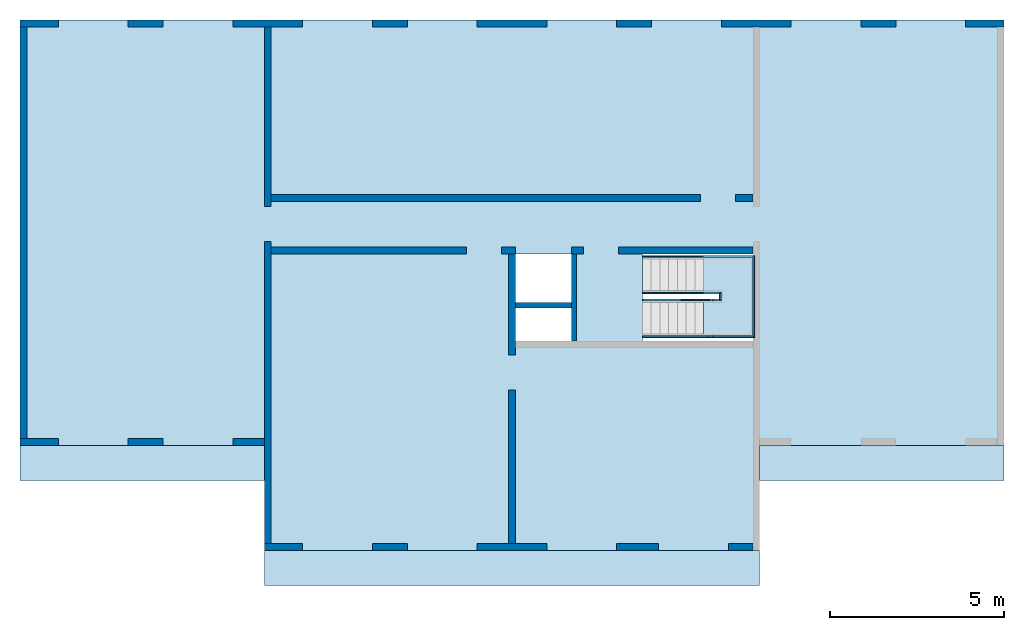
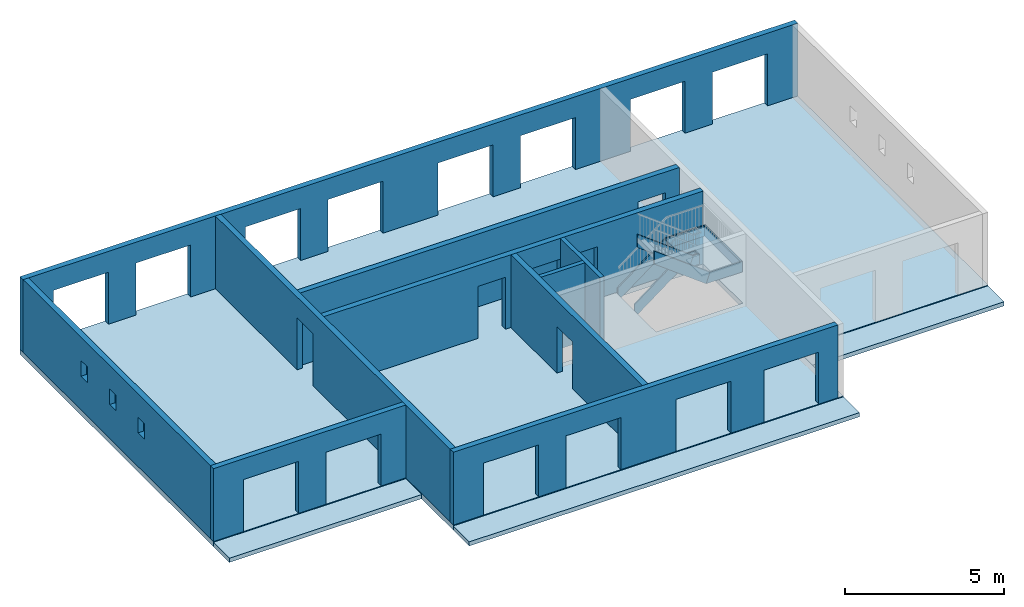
# One storey, part 1 of 3: 10 members, 10 walls, 3 slabs, 26 openings, 1 element without a shape of its own.
"""IFC2X3 building model written with IfcOpenShell, lengths in metres."""

from ifc_helpers import new_model, entity, si_unit, converted_unit, derived_unit, direction, frame, frame_2d, origin, origin_2d_with_axis, place, context, subcontext, project, spatial, polyline, rectangle, outline, extrude, faceted_brep, material, layer, layer_set, layer_usage, type_object, element, aggregate, save


model = new_model("IFC2X3")

# Units and contexts
model_context = context("Model", 3, precision=1e-05, world=origin(), true_north=direction((6.12303176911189e-17, 1.0)))
body_context = subcontext(model_context, "Body", "Model", "MODEL_VIEW")
ifc_project = project(units=[si_unit("LENGTHUNIT", "METRE"), si_unit("AREAUNIT", "SQUARE_METRE"), si_unit("VOLUMEUNIT", "CUBIC_METRE"), converted_unit("PLANEANGLEUNIT", "DEGREE", entity("IfcRatioMeasure", 0.0174532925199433), si_unit("PLANEANGLEUNIT", "RADIAN"), dimensions=[0, 0, 0, 0, 0, 0, 0]), si_unit("MASSUNIT", "GRAM", prefix="KILO"), derived_unit("MASSDENSITYUNIT", [(si_unit("MASSUNIT", "GRAM", prefix="KILO"), 1), (si_unit("LENGTHUNIT", "METRE"), -3)]), si_unit("TIMEUNIT", "SECOND"), si_unit("FREQUENCYUNIT", "HERTZ"), si_unit("THERMODYNAMICTEMPERATUREUNIT", "DEGREE_CELSIUS"), derived_unit("THERMALTRANSMITTANCEUNIT", [(si_unit("MASSUNIT", "GRAM", prefix="KILO"), 1), (si_unit("THERMODYNAMICTEMPERATUREUNIT", "KELVIN"), -1), (si_unit("TIMEUNIT", "SECOND"), -3)]), derived_unit("VOLUMETRICFLOWRATEUNIT", [(si_unit("LENGTHUNIT", "METRE"), 3), (si_unit("TIMEUNIT", "SECOND"), -1)]), si_unit("ELECTRICCURRENTUNIT", "AMPERE"), si_unit("ELECTRICVOLTAGEUNIT", "VOLT"), si_unit("POWERUNIT", "WATT"), si_unit("FORCEUNIT", "NEWTON"), si_unit("ILLUMINANCEUNIT", "LUX"), si_unit("LUMINOUSFLUXUNIT", "LUMEN"), si_unit("LUMINOUSINTENSITYUNIT", "CANDELA"), derived_unit("USERDEFINED", [(si_unit("MASSUNIT", "GRAM", prefix="KILO"), -1), (si_unit("LENGTHUNIT", "METRE"), -2), (si_unit("TIMEUNIT", "SECOND"), 3), (si_unit("LUMINOUSFLUXUNIT", "LUMEN"), 1)]), derived_unit("LINEARVELOCITYUNIT", [(si_unit("LENGTHUNIT", "METRE"), 1), (si_unit("TIMEUNIT", "SECOND"), -1)]), si_unit("PRESSUREUNIT", "PASCAL"), derived_unit("USERDEFINED", [(si_unit("LENGTHUNIT", "METRE"), -2), (si_unit("MASSUNIT", "GRAM", prefix="KILO"), 1), (si_unit("TIMEUNIT", "SECOND"), -2)])], contexts=[model_context])

# Site, building, storey
site_placement = place(None, origin())
site = spatial("IfcSite", under=ifc_project, at=site_placement, Name="Default", CompositionType="ELEMENT")
building_placement = place(site_placement, origin())
building = spatial("IfcBuilding", under=site, at=building_placement, CompositionType="ELEMENT")
storey_placement = place(building_placement, frame((0.0, 0.0, 3.0)))
storey = spatial("IfcBuildingStorey", under=building, at=storey_placement, Name="R+1", CompositionType="ELEMENT", Elevation=2.99999999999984)

# Stair, members
stair_placement = place(storey_placement, origin())
stair = element("IfcStair", 1, at=stair_placement, inside=storey, Name="Escalier assemblé:Escalier", ObjectType="Escalier assemblé:Contremarche 190 mm max marche 250\xa0mm", ShapeType="NOTDEFINED")
member_type = type_object("IfcMemberType", Name="Limon à la française:Limon à la française - 50 mm de largeur", PredefinedType="STRINGER")
member_1_placement = place(stair_placement, origin())
member_1 = element("IfcMember", 2, at=member_1_placement, type_object=member_type, Name="Escalier assemblé:Escalier:468584 Stringer 1", ObjectType="Escalier assemblé:Contremarche 190 mm max marche 250\xa0mm", context=body_context, shape_type="SweptSolid", body=[
    extrude(outline(polyline([(-0.973212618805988, -0.200000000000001), (1.19067644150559, -0.200000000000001), (1.0569252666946, 0.2), (-1.27438908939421, 0.2), (-0.973212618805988, -0.200000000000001)])), frame((6.43043564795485, 2.2618101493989, 0.853112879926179), z_axis=(0.0, 1.0, 0.0), x_axis=(0.798870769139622, 0.0, 0.601502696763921)), (0.0, 0.0, 1.0), 0.05),
])
member_2_placement = place(stair_placement, origin())
member_2 = element("IfcMember", 3, at=member_2_placement, type_object=member_type, Name="Escalier assemblé:Escalier:468584 Stringer 2", ObjectType="Escalier assemblé:Contremarche 190 mm max marche 250\xa0mm", context=body_context, shape_type="SweptSolid", body=[
    extrude(outline(polyline([(-0.973212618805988, -0.2), (1.19067644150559, -0.2), (1.0569252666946, 0.200000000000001), (-1.27438908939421, 0.2), (-0.973212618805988, -0.2)])), frame((6.43043564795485, 1.2118101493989, 0.853112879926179), z_axis=(0.0, 1.0, 0.0), x_axis=(0.798870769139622, 0.0, 0.601502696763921)), (0.0, 0.0, 1.0), 0.0500000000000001),
])
member_3_placement = place(stair_placement, origin())
member_3 = element("IfcMember", 4, at=member_3_placement, type_object=member_type, Name="Escalier assemblé:Escalier:468584 Stringer 3", ObjectType="Escalier assemblé:Contremarche 190 mm max marche 250\xa0mm", context=body_context, shape_type="SweptSolid", body=[
    extrude(outline(polyline([(-1.2901377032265, -0.2), (1.0726738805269, -0.2), (1.37385035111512, 0.2), (-1.15638652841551, 0.200000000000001), (-1.2901377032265, -0.2)])), frame((6.50989234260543, -0.0381898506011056, 2.26487758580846), z_axis=(0.0, 1.0, 0.0), x_axis=(-0.798870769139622, 0.0, 0.601502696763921)), (0.0, 0.0, 1.0), 0.05),
])
member_4_placement = place(stair_placement, origin())
member_4 = element("IfcMember", 5, at=member_4_placement, type_object=member_type, Name="Escalier assemblé:Escalier:468584 Stringer 4", ObjectType="Escalier assemblé:Contremarche 190 mm max marche 250\xa0mm", context=body_context, shape_type="SweptSolid", body=[
    extrude(outline(polyline([(-1.2901377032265, -0.200000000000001), (1.0726738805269, -0.200000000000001), (1.37385035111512, 0.2), (-1.15638652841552, 0.2), (-1.2901377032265, -0.200000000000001)])), frame((6.50989234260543, 1.01181014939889, 2.26487758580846), z_axis=(0.0, 1.0, 0.0), x_axis=(-0.798870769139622, 0.0, 0.60150269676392)), (0.0, 0.0, 1.0), 0.05),
])
member_5_placement = place(stair_placement, frame((7.42024510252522, -0.0381898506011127, 1.32908212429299)))
member_5 = element("IfcMember", 6, at=member_5_placement, type_object=member_type, Name="Escalier assemblé:Escalier:468584 Stringer 5", ObjectType="Escalier assemblé:Contremarche 190 mm max marche 250\xa0mm", context=body_context, shape_type="Brep", body=[
    faceted_brep([(0.133751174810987, 0.0500000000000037, 0.4), (0.133751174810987, 0.0, 0.4), (1.32241889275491, 0.0, 0.4), (1.27241889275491, 0.0500000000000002, 0.4), (0.0, 0.0500000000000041, 0.0), (1.27241889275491, 0.0500000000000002, 0.0), (0.0, 0.0, 0.0), (1.32241889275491, 0.0, 0.0)], [[[0, 1, 2, 3]], [[4, 0, 3, 5]], [[6, 4, 5, 7]], [[1, 6, 7, 2]], [[1, 0, 4, 6]], [[2, 7, 5, 3]]]),
])
member_6_placement = place(stair_placement, origin())
member_6 = element("IfcMember", 7, at=member_6_placement, type_object=member_type, Name="Escalier assemblé:Escalier:468584 Stringer 6", ObjectType="Escalier assemblé:Contremarche 190 mm max marche 250\xa0mm", context=body_context, shape_type="SweptSolid", body=[
    extrude(outline(polyline([(-1.17500000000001, -0.0249999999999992), (1.17500000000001, -0.0249999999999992), (1.125, 0.0250000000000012), (-1.125, 0.0250000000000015), (-1.17500000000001, -0.0249999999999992)])), frame((8.71766399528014, 1.13681014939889, 1.32908212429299), z_axis=(0.0, 0.0, 1.0), x_axis=(0.0, 1.0, 0.0)), (0.0, 0.0, 1.0), 0.4),
])
member_7_placement = place(stair_placement, frame((7.26133171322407, 2.2618101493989, 1.32908212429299)))
member_7 = element("IfcMember", 8, at=member_7_placement, type_object=member_type, Name="Escalier assemblé:Escalier:468584 Stringer 7", ObjectType="Escalier assemblé:Contremarche 190 mm max marche 250\xa0mm", context=body_context, shape_type="Brep", body=[
    faceted_brep([(1.43133228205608, 0.0, 0.4), (1.48133228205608, 0.0499999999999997, 0.4), (0.0, 0.0500000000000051, 0.4), (0.0, 0.0, 0.4), (1.43133228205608, 0.0, 0.0), (0.133751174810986, 0.0, 0.0), (1.48133228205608, 0.0499999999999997, 0.0), (0.133751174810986, 0.0500000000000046, 0.0)], [[[0, 1, 2, 3]], [[4, 0, 3, 5]], [[6, 4, 5, 7]], [[1, 6, 7, 2]], [[1, 0, 4, 6]], [[2, 7, 5, 3]]]),
])
member_8_placement = place(stair_placement, frame((7.26133171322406, 1.2118101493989, 1.32908212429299)))
member_8 = element("IfcMember", 9, at=member_8_placement, type_object=member_type, Name="Escalier assemblé:Escalier:468584 Stringer 8", ObjectType="Escalier assemblé:Contremarche 190 mm max marche 250\xa0mm", context=body_context, shape_type="Brep", body=[
    faceted_brep([(0.0, 0.0500000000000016, 0.4), (0.0, 0.0, 0.4), (0.471332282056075, 0.0, 0.4), (0.521332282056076, 0.0499999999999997, 0.4), (0.133751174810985, 0.0500000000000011, 0.0), (0.521332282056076, 0.0499999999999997, 0.0), (0.133751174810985, 0.0, 0.0), (0.471332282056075, 0.0, 0.0)], [[[0, 1, 2, 3]], [[4, 0, 3, 5]], [[6, 4, 5, 7]], [[1, 6, 7, 2]], [[1, 0, 4, 6]], [[2, 7, 5, 3]]]),
])
member_9_placement = place(stair_placement, origin())
member_9 = element("IfcMember", 10, at=member_9_placement, type_object=member_type, Name="Escalier assemblé:Escalier:468584 Stringer 9", ObjectType="Escalier assemblé:Contremarche 190 mm max marche 250\xa0mm", context=body_context, shape_type="SweptSolid", body=[
    extrude(outline(polyline([(-0.0750000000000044, -0.0250000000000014), (0.0750000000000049, -0.0250000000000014), (0.125000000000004, 0.0249999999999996), (-0.125000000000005, 0.0249999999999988), (-0.0750000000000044, -0.0250000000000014)])), frame((7.75766399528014, 1.13681014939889, 1.32908212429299), z_axis=(0.0, 0.0, 1.0), x_axis=(0.0, -1.0, 0.0)), (0.0, 0.0, 1.0), 0.4),
])
member_10_placement = place(stair_placement, frame((7.42024510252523, 1.01181014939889, 1.32908212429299)))
member_10 = element("IfcMember", 11, at=member_10_placement, type_object=member_type, Name="Escalier assemblé:Escalier:468584 Stringer 10", ObjectType="Escalier assemblé:Contremarche 190 mm max marche 250\xa0mm", context=body_context, shape_type="Brep", body=[
    faceted_brep([(0.362418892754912, 0.0, 0.4), (0.312418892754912, 0.0500000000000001, 0.4), (0.133751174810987, 0.0500000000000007, 0.4), (0.133751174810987, 0.0, 0.4), (0.362418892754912, 0.0, 0.0), (0.0, 0.0, 0.0), (0.312418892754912, 0.0500000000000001, 0.0), (0.0, 0.0500000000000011, 0.0)], [[[0, 1, 2, 3]], [[4, 0, 3, 5]], [[6, 4, 5, 7]], [[1, 6, 7, 2]], [[1, 0, 4, 6]], [[2, 7, 5, 3]]]),
])

# Slab, openings
ifc_material_1 = material(Name="Béton - Coulé sur place - Béton20")
ifc_layer_1 = layer(ifc_material_1, 0.2)
ifc_layer_set_1 = layer_set([ifc_layer_1], Name="Sol:Dalle pleine 200 mm")
ifc_layer_usage_1 = layer_usage(ifc_layer_set_1, "AXIS3", "POSITIVE", 0.0)
slab_1_placement = place(storey_placement, frame((-12.3073360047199, -6.13818985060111, 0.0)))
slab_1 = element("IfcSlab", 12, at=slab_1_placement, inside=storey, material=ifc_layer_usage_1, Name="Sol:Dalle pleine 200 mm", ObjectType="Sol:Dalle pleine 200 mm", PredefinedType="FLOOR", context=body_context, shape_type="SweptSolid", body=[
    extrude(outline(polyline([(-14.1, 7.59999999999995), (-14.1, -4.60000000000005), (-7.1, -4.60000000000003), (-7.09999999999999, -7.60000000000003), (7.10000000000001, -7.59999999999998), (7.10000000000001, -4.59999999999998), (14.1, -4.59999999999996), (14.1, 7.60000000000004), (-14.1, 7.59999999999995)])), frame((14.1, 7.60000000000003, 0.2), z_axis=(0.0, 0.0, -1.0), x_axis=(-1.0, 0.0, 0.0)), (0.0, 0.0, 1.0), 0.2),
])
opening_1_placement = place(slab_1_placement, frame((15.0, 7.80000000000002, 0.2)))
element("IfcOpeningElement", 13, at=opening_1_placement, cuts=slab_1, Name="Sol:Dalle pleine 200 mm:2", ObjectType="Opening", context=body_context, shape_type="SweptSolid", body=[
    extrude(rectangle(XDim=1.4, YDim=1.6, at=origin_2d_with_axis()), frame((0.0, 0.0, 0.0), z_axis=(0.0, 0.0, -1.0), x_axis=(0.0, -1.0, 0.0)), (0.0, 0.0, 1.0), 0.2),
])
opening_2_placement = place(slab_1_placement, frame((15.0, 6.47500000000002, 0.2)))
element("IfcOpeningElement", 14, at=opening_2_placement, cuts=slab_1, Name="Sol:Dalle pleine 200 mm:3", ObjectType="Opening", context=body_context, shape_type="SweptSolid", body=[
    extrude(rectangle(XDim=0.95, YDim=1.6, at=origin_2d_with_axis()), frame((0.0, 0.0, 0.0), z_axis=(0.0, 0.0, -1.0), x_axis=(0.0, -1.0, 0.0)), (0.0, 0.0, 1.0), 0.2),
])
opening_3_placement = place(slab_1_placement, frame((19.42, 7.25, 0.2)))
element("IfcOpeningElement", 15, at=opening_3_placement, cuts=slab_1, Name="Sol:Dalle pleine 200 mm:4", ObjectType="Opening", context=body_context, shape_type="SweptSolid", body=[
    extrude(rectangle(XDim=3.16, YDim=2.49999999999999, at=origin_2d_with_axis()), frame((0.0, 0.0, 0.0), z_axis=(0.0, 0.0, -1.0), x_axis=(1.0, 0.0, 0.0)), (0.0, 0.0, 1.0), 0.2),
])

# Slab
ifc_layer_2 = layer(ifc_material_1, 0.16)
ifc_layer_set_2 = layer_set([ifc_layer_2], Name="Sol:Balcon 160 mm")
ifc_layer_usage_2 = layer_usage(ifc_layer_set_2, "AXIS3", "POSITIVE", 0.0)
slab_2_placement = place(storey_placement, origin())
element("IfcSlab", 16, at=slab_2_placement, inside=storey, material=ifc_layer_usage_2, Name="Sol:Balcon 160 mm", ObjectType="Sol:Balcon 160 mm", PredefinedType="FLOOR", context=body_context, shape_type="SweptSolid", body=[
    extrude(outline(polyline([(-0.0824999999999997, -0.5), (0.0875000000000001, -0.5), (0.0775000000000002, 0.5), (-0.0824999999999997, 0.5), (-0.0824999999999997, -0.5)])), frame((8.89266399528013, -3.63818985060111, 0.0824999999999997), z_axis=(1.0, 0.0, 0.0), x_axis=(0.0, 0.0, 1.0)), (0.0, 0.0, 1.0), 7.0),
    extrude(outline(polyline([(-0.0824999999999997, -0.5), (0.0875000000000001, -0.5), (0.0775000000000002, 0.5), (-0.0824999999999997, 0.5), (-0.0824999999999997, -0.5)])), frame((-12.3073360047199, -3.63818985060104, 0.0824999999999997), z_axis=(1.0, 0.0, 0.0), x_axis=(0.0, 0.0, 1.0)), (0.0, 0.0, 1.0), 7.0),
    extrude(outline(polyline([(-0.0824999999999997, -0.5), (0.0875000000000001, -0.5), (0.0775000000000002, 0.5), (-0.0824999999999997, 0.5), (-0.0824999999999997, -0.5)])), frame((-5.30733600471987, -6.63818985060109, 0.0824999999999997), z_axis=(1.0, 0.0, 0.0), x_axis=(0.0, 0.0, 1.0)), (0.0, 0.0, 1.0), 14.2),
])

slab_3_placement = place(stair_placement, origin())
slab_3 = element("IfcSlab", 17, at=slab_3_placement, Name="Escalier assemblé:Escalier:468584 Landing 1", ObjectType="Escalier assemblé:Contremarche 190 mm max marche 250\xa0mm", PredefinedType="LANDING", context=body_context, shape_type="SweptSolid", body=[
    extrude(outline(polyline([(-1.125, -0.477500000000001), (-0.125000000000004, -0.477500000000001), (-0.125000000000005, 0.0225000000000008), (0.125000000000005, 0.0225000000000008), (0.125000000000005, -0.477499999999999), (1.12500000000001, -0.477499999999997), (1.125, 0.932500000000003), (-1.12500000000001, 0.932500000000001), (-1.125, -0.477500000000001)])), frame((7.76016399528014, 1.1368101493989, 1.63235294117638), z_axis=(0.0, 0.0, 1.0), x_axis=(0.0, -1.0, 0.0)), (0.0, 0.0, 1.0), 0.05),
])

aggregate(stair, [slab_3, member_1, member_2, member_3, member_4, member_5, member_6, member_7, member_8, member_9, member_10])

# Wall, openings
ifc_layer_3 = layer(ifc_material_1, 0.2)
ifc_layer_set_3 = layer_set([ifc_layer_3], Name="Mur de base:Générique - 200 mm")
ifc_layer_usage_3 = layer_usage(ifc_layer_set_3, "AXIS2", "NEGATIVE", 0.1)
wall_type_1 = type_object("IfcWallType", Name="Mur de base:Générique - 200 mm", PredefinedType="STANDARD", material=ifc_layer_set_3)
wall_1_placement = place(storey_placement, frame((-12.3073360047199, 8.96181014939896, 0.200000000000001)))
wall_1 = element("IfcWallStandardCase", 18, at=wall_1_placement, inside=storey, type_object=wall_type_1, material=ifc_layer_usage_3, Name="Mur de base:Générique - 200 mm", ObjectType="Mur de base:Générique - 200 mm:1044", context=body_context, shape_type="SweptSolid", body=[
    extrude(rectangle(XDim=28.2, YDim=0.2, at=frame_2d((14.1, 3.19189119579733e-16), x_axis=(-1.0, 0.0))), origin(), (0.0, 0.0, 1.0), 2.80000000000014),
])
opening_4_placement = place(wall_1_placement, frame((12.3073360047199, -8.96181014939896, -0.200000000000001)))
element("IfcOpeningElement", 19, at=opening_4_placement, cuts=wall_1, Name="Mur de base:Générique - 200 mm", ObjectType="Opening", context=body_context, shape_type="SweptSolid", body=[
    extrude(rectangle(XDim=2.0, YDim=2.0, at=frame_2d((-2.22044604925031e-16, 0.0), x_axis=(1.0, 0.0))), frame((13.7926639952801, 7.53781014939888, 1.2), z_axis=(0.0, 1.0, 0.0), x_axis=(0.0, 0.0, -1.0)), (0.0, 0.0, 1.0), 3.048),
])
opening_5_placement = place(wall_1_placement, frame((12.3073360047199, -8.96181014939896, -0.200000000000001)))
element("IfcOpeningElement", 20, at=opening_5_placement, cuts=wall_1, Name="Mur de base:Générique - 200 mm", ObjectType="Opening", context=body_context, shape_type="SweptSolid", body=[
    extrude(rectangle(XDim=2.0, YDim=2.0, at=frame_2d((0.0, -2.22044604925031e-16), x_axis=(0.0, 1.0))), frame((10.7926639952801, 7.33781014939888, 1.2), z_axis=(0.0, 1.0, 0.0), x_axis=(1.0, 0.0, 0.0)), (0.0, 0.0, 1.0), 3.048),
])
opening_6_placement = place(wall_1_placement, frame((12.3073360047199, -8.96181014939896, -0.200000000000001)))
element("IfcOpeningElement", 21, at=opening_6_placement, cuts=wall_1, Name="Mur de base:Générique - 200 mm", ObjectType="Opening", context=body_context, shape_type="SweptSolid", body=[
    extrude(rectangle(XDim=2.0, YDim=2.0, at=frame_2d((-3.33066907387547e-16, 0.0), x_axis=(1.0, 0.0))), frame((-10.2073360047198, 7.53781014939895, 1.2), z_axis=(0.0, 1.0, 0.0), x_axis=(0.0, 0.0, -1.0)), (0.0, 0.0, 1.0), 3.048),
])
opening_7_placement = place(wall_1_placement, frame((12.3073360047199, -8.96181014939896, -0.200000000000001)))
element("IfcOpeningElement", 22, at=opening_7_placement, cuts=wall_1, Name="Mur de base:Générique - 200 mm", ObjectType="Opening", context=body_context, shape_type="SweptSolid", body=[
    extrude(rectangle(XDim=2.0, YDim=2.0, at=frame_2d((-3.33066907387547e-16, 0.0), x_axis=(1.0, 0.0))), frame((-7.20733600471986, 7.53781014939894, 1.2), z_axis=(0.0, 1.0, 0.0), x_axis=(0.0, 0.0, -1.0)), (0.0, 0.0, 1.0), 3.048),
])
opening_8_placement = place(wall_1_placement, frame((12.3073360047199, -8.96181014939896, -0.200000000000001)))
element("IfcOpeningElement", 23, at=opening_8_placement, cuts=wall_1, Name="Mur de base:Générique - 200 mm", ObjectType="Opening", context=body_context, shape_type="SweptSolid", body=[
    extrude(rectangle(XDim=2.0, YDim=2.0, at=frame_2d((-2.77555756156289e-16, 2.22044604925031e-16), x_axis=(1.0, 0.0))), frame((-3.20733600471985, 7.53781014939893, 1.2), z_axis=(0.0, 1.0, 0.0), x_axis=(0.0, 0.0, -1.0)), (0.0, 0.0, 1.0), 3.048),
])
opening_9_placement = place(wall_1_placement, frame((12.3073360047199, -8.96181014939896, -0.200000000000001)))
element("IfcOpeningElement", 24, at=opening_9_placement, cuts=wall_1, Name="Mur de base:Générique - 200 mm", ObjectType="Opening", context=body_context, shape_type="SweptSolid", body=[
    extrude(rectangle(XDim=2.0, YDim=2.0, at=frame_2d((-4.9960036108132e-16, -2.22044604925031e-16), x_axis=(0.0, 1.0))), frame((6.79266399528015, 7.3378101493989, 1.2), z_axis=(0.0, 1.0, 0.0), x_axis=(1.0, 0.0, 0.0)), (0.0, 0.0, 1.0), 3.048),
])
opening_10_placement = place(wall_1_placement, frame((12.3073360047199, -8.96181014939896, -0.200000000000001)))
element("IfcOpeningElement", 25, at=opening_10_placement, cuts=wall_1, Name="Mur de base:Générique - 200 mm", ObjectType="Opening", context=body_context, shape_type="SweptSolid", body=[
    extrude(rectangle(XDim=2.0, YDim=2.0, at=frame_2d((-2.22044604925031e-16, -2.22044604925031e-16), x_axis=(0.0, 1.0))), frame((3.79266399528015, 7.33781014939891, 1.2), z_axis=(0.0, 1.0, 0.0), x_axis=(1.0, 0.0, 0.0)), (0.0, 0.0, 1.0), 3.048),
])
opening_11_placement = place(wall_1_placement, frame((12.3073360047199, -8.96181014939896, -0.200000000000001)))
element("IfcOpeningElement", 26, at=opening_11_placement, cuts=wall_1, Name="Mur de base:Générique - 200 mm", ObjectType="Opening", context=body_context, shape_type="SweptSolid", body=[
    extrude(rectangle(XDim=2.0, YDim=2.0, at=frame_2d((0.0, -2.22044604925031e-16), x_axis=(0.0, 1.0))), frame((-0.207336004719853, 7.33781014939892, 1.2), z_axis=(0.0, 1.0, 0.0), x_axis=(1.0, 0.0, 0.0)), (0.0, 0.0, 1.0), 3.048),
])

ifc_layer_usage_4 = layer_usage(ifc_layer_set_3, "AXIS2", "NEGATIVE", 0.1)
wall_2_placement = place(storey_placement, frame((8.69266399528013, -6.03818985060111, 0.199999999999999), z_axis=(0.0, 0.0, 1.0), x_axis=(-1.0, 0.0, 0.0)))
wall_2 = element("IfcWallStandardCase", 27, at=wall_2_placement, inside=storey, type_object=wall_type_1, material=ifc_layer_usage_4, Name="Mur de base:Générique - 200 mm", ObjectType="Mur de base:Générique - 200 mm:1044", context=body_context, shape_type="SweptSolid", body=[
    extrude(rectangle(XDim=14.0, YDim=0.2, at=frame_2d((7.0, 0.0), x_axis=(-1.0, 0.0))), origin(), (0.0, 0.0, 1.0), 2.80000000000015),
])
opening_12_placement = place(wall_2_placement, frame((8.69266399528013, -6.03818985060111, -0.199999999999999), z_axis=(0.0, 0.0, 1.0), x_axis=(-1.0, 0.0, 0.0)))
element("IfcOpeningElement", 28, at=opening_12_placement, cuts=wall_2, Name="Mur de base:Générique - 200 mm", ObjectType="Opening", context=body_context, shape_type="SweptSolid", body=[
    extrude(rectangle(XDim=2.0, YDim=2.0, at=frame_2d((-2.77555756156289e-16, 1.11022302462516e-16), x_axis=(1.0, 0.0))), frame((-3.20733600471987, -4.61418985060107, 1.2), z_axis=(0.0, -1.0, 0.0), x_axis=(0.0, 0.0, -1.0)), (0.0, 0.0, 1.0), 3.048),
])
opening_13_placement = place(wall_2_placement, frame((8.69266399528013, -6.03818985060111, -0.199999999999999), z_axis=(0.0, 0.0, 1.0), x_axis=(-1.0, 0.0, 0.0)))
element("IfcOpeningElement", 29, at=opening_13_placement, cuts=wall_2, Name="Mur de base:Générique - 200 mm", ObjectType="Opening", context=body_context, shape_type="SweptSolid", body=[
    extrude(rectangle(XDim=2.0, YDim=2.0, at=frame_2d((-2.22044604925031e-16, 0.0), x_axis=(1.0, 0.0))), frame((-0.207336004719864, -4.61418985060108, 1.2), z_axis=(0.0, -1.0, 0.0), x_axis=(0.0, 0.0, -1.0)), (0.0, 0.0, 1.0), 3.048),
])
opening_14_placement = place(wall_2_placement, frame((8.69266399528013, -6.03818985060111, -0.199999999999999), z_axis=(0.0, 0.0, 1.0), x_axis=(-1.0, 0.0, 0.0)))
element("IfcOpeningElement", 30, at=opening_14_placement, cuts=wall_2, Name="Mur de base:Générique - 200 mm", ObjectType="Opening", context=body_context, shape_type="SweptSolid", body=[
    extrude(rectangle(XDim=2.0, YDim=2.0, at=frame_2d((-2.22044604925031e-16, 2.22044604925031e-16), x_axis=(1.0, 0.0))), frame((3.79266399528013, -4.61418985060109, 1.2), z_axis=(0.0, -1.0, 0.0), x_axis=(0.0, 0.0, -1.0)), (0.0, 0.0, 1.0), 3.048),
])
opening_15_placement = place(wall_2_placement, frame((8.69266399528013, -6.03818985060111, -0.199999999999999), z_axis=(0.0, 0.0, 1.0), x_axis=(-1.0, 0.0, 0.0)))
element("IfcOpeningElement", 31, at=opening_15_placement, cuts=wall_2, Name="Mur de base:Générique - 200 mm", ObjectType="Opening", context=body_context, shape_type="SweptSolid", body=[
    extrude(rectangle(XDim=2.0, YDim=2.0, at=frame_2d((-3.33066907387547e-16, 0.0), x_axis=(1.0, 0.0))), frame((6.99266399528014, -4.6141898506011, 1.2), z_axis=(0.0, -1.0, 0.0), x_axis=(0.0, 0.0, -1.0)), (0.0, 0.0, 1.0), 3.048),
])

# Wall, opening
ifc_layer_usage_5 = layer_usage(ifc_layer_set_3, "AXIS2", "NEGATIVE", 0.1)
wall_3_placement = place(storey_placement, frame((-5.20733600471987, -5.93818985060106, 0.200000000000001), z_axis=(0.0, 0.0, 1.0), x_axis=(0.0, 1.0, 0.0)))
wall_3 = element("IfcWallStandardCase", 32, at=wall_3_placement, inside=storey, type_object=wall_type_1, material=ifc_layer_usage_5, Name="Mur de base:Générique - 200 mm", ObjectType="Mur de base:Générique - 200 mm:1044", context=body_context, shape_type="SweptSolid", body=[
    extrude(rectangle(XDim=14.8, YDim=0.2, at=frame_2d((7.4, -1.66533453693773e-16), x_axis=(-1.0, 0.0))), origin(), (0.0, 0.0, 1.0), 2.80000000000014),
])
opening_16_placement = place(wall_3_placement, frame((5.93818985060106, -5.20733600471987, -0.200000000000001), z_axis=(0.0, 0.0, 1.0), x_axis=(0.0, -1.0, 0.0)))
element("IfcOpeningElement", 33, at=opening_16_placement, cuts=wall_3, Name="Mur de base:Générique - 200 mm", ObjectType="Opening", context=body_context, shape_type="SweptSolid", body=[
    extrude(rectangle(XDim=2.0, YDim=1.0, at=frame_2d((-2.22044604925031e-16, -2.4980018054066e-16), x_axis=(1.0, 0.0))), frame((-3.78333600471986, 3.21181014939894, 1.2), z_axis=(-1.0, 0.0, 0.0), x_axis=(0.0, 0.0, -1.0)), (0.0, 0.0, 1.0), 3.048),
])

# Wall, openings
ifc_layer_usage_6 = layer_usage(ifc_layer_set_3, "AXIS2", "NEGATIVE", 0.1)
wall_4_placement = place(storey_placement, frame((-5.30733600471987, -3.03818985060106, 0.200000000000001), z_axis=(0.0, 0.0, 1.0), x_axis=(-1.0, 0.0, 0.0)))
wall_4 = element("IfcWallStandardCase", 34, at=wall_4_placement, inside=storey, type_object=wall_type_1, material=ifc_layer_usage_6, Name="Mur de base:Générique - 200 mm", ObjectType="Mur de base:Générique - 200 mm:1044", context=body_context, shape_type="SweptSolid", body=[
    extrude(rectangle(XDim=7.0, YDim=0.2, at=frame_2d((3.5, 0.0), x_axis=(-1.0, 0.0))), origin(), (0.0, 0.0, 1.0), 2.80000000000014),
])
opening_17_placement = place(wall_4_placement, frame((-5.30733600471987, -3.03818985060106, -0.200000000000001), z_axis=(0.0, 0.0, 1.0), x_axis=(-1.0, 0.0, 0.0)))
element("IfcOpeningElement", 35, at=opening_17_placement, cuts=wall_4, Name="Mur de base:Générique - 200 mm", ObjectType="Opening", context=body_context, shape_type="SweptSolid", body=[
    extrude(rectangle(XDim=2.0, YDim=2.0, at=frame_2d((1.0547118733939e-15, -2.22044604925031e-16), x_axis=(0.0, 1.0))), frame((-10.2073360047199, -1.41418985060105, 1.2), z_axis=(0.0, -1.0, 0.0), x_axis=(-1.0, 0.0, 0.0)), (0.0, 0.0, 1.0), 3.048),
])
opening_18_placement = place(wall_4_placement, frame((-5.30733600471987, -3.03818985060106, -0.200000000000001), z_axis=(0.0, 0.0, 1.0), x_axis=(-1.0, 0.0, 0.0)))
element("IfcOpeningElement", 36, at=opening_18_placement, cuts=wall_4, Name="Mur de base:Générique - 200 mm", ObjectType="Opening", context=body_context, shape_type="SweptSolid", body=[
    extrude(rectangle(XDim=2.0, YDim=2.0, at=frame_2d((-4.9960036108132e-16, -2.22044604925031e-16), x_axis=(0.0, 1.0))), frame((-7.20733600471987, -1.41418985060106, 1.2), z_axis=(0.0, -1.0, 0.0), x_axis=(-1.0, 0.0, 0.0)), (0.0, 0.0, 1.0), 3.048),
])

ifc_layer_usage_7 = layer_usage(ifc_layer_set_3, "AXIS2", "NEGATIVE", 0.1)
wall_5_placement = place(storey_placement, frame((-12.2073360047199, -2.93818985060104, 0.200000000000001), z_axis=(0.0, 0.0, 1.0), x_axis=(0.0, 1.0, 0.0)))
wall_5 = element("IfcWallStandardCase", 37, at=wall_5_placement, inside=storey, type_object=wall_type_1, material=ifc_layer_usage_7, Name="Mur de base:Générique - 200 mm", ObjectType="Mur de base:Générique - 200 mm:1044", context=body_context, shape_type="SweptSolid", body=[
    extrude(rectangle(XDim=11.8, YDim=0.199999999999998, at=frame_2d((5.9, -1.59594559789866e-16), x_axis=(-1.0, 0.0))), origin(), (0.0, 0.0, 1.0), 2.80000000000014),
])
opening_19_placement = place(wall_5_placement, frame((2.93818985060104, -12.2073360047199, -0.200000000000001), z_axis=(0.0, 0.0, 1.0), x_axis=(0.0, -1.0, 0.0)))
element("IfcOpeningElement", 38, at=opening_19_placement, cuts=wall_5, Name="Mur de base:Générique - 200 mm", ObjectType="Opening", context=body_context, shape_type="SweptSolid", body=[
    extrude(rectangle(XDim=0.6, YDim=0.4, at=origin_2d_with_axis()), frame((-10.7833360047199, 3.21181014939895, 1.8), z_axis=(-1.0, 0.0, 0.0), x_axis=(0.0, 0.0, -1.0)), (0.0, 0.0, 1.0), 3.048),
])
opening_20_placement = place(wall_5_placement, frame((2.93818985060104, -12.2073360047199, -0.200000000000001), z_axis=(0.0, 0.0, 1.0), x_axis=(0.0, -1.0, 0.0)))
element("IfcOpeningElement", 39, at=opening_20_placement, cuts=wall_5, Name="Mur de base:Générique - 200 mm", ObjectType="Opening", context=body_context, shape_type="SweptSolid", body=[
    extrude(rectangle(XDim=0.6, YDim=0.400000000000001, at=frame_2d((0.0, 2.77555756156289e-16), x_axis=(1.0, 0.0))), frame((-10.7833360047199, 5.01181014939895, 1.8), z_axis=(-1.0, 0.0, 0.0), x_axis=(0.0, 0.0, -1.0)), (0.0, 0.0, 1.0), 3.048),
])
opening_21_placement = place(wall_5_placement, frame((2.93818985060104, -12.2073360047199, -0.200000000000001), z_axis=(0.0, 0.0, 1.0), x_axis=(0.0, -1.0, 0.0)))
element("IfcOpeningElement", 40, at=opening_21_placement, cuts=wall_5, Name="Mur de base:Générique - 200 mm", ObjectType="Opening", context=body_context, shape_type="SweptSolid", body=[
    extrude(rectangle(XDim=0.6, YDim=0.4, at=frame_2d((0.0, -6.93889390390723e-17), x_axis=(1.0, 0.0))), frame((-10.7833360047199, 1.41181014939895, 1.8), z_axis=(-1.0, 0.0, 0.0), x_axis=(0.0, 0.0, -1.0)), (0.0, 0.0, 1.0), 3.048),
])

# Wall, opening
ifc_layer_usage_8 = layer_usage(ifc_layer_set_3, "AXIS2", "NEGATIVE", 0.1)
wall_6_placement = place(storey_placement, frame((-5.10733600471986, 3.96181014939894, 0.200000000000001)))
wall_6 = element("IfcWallStandardCase", 41, at=wall_6_placement, inside=storey, type_object=wall_type_1, material=ifc_layer_usage_8, Name="Mur de base:Générique - 200 mm", ObjectType="Mur de base:Générique - 200 mm:1044", context=body_context, shape_type="SweptSolid", body=[
    extrude(rectangle(XDim=13.8, YDim=0.2, at=frame_2d((6.9, 2.22044604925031e-16), x_axis=(-1.0, 0.0))), origin(), (0.0, 0.0, 1.0), 2.80000000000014),
])
opening_22_placement = place(wall_6_placement, frame((5.10733600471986, -3.96181014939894, -0.200000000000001)))
element("IfcOpeningElement", 42, at=opening_22_placement, cuts=wall_6, Name="Mur de base:Générique - 200 mm", ObjectType="Opening", context=body_context, shape_type="SweptSolid", body=[
    extrude(rectangle(XDim=2.0, YDim=1.0, at=frame_2d((-2.22044604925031e-16, 1.08246744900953e-15), x_axis=(1.0, 0.0))), frame((7.69266399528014, 2.5378101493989, 1.2), z_axis=(0.0, 1.0, 0.0), x_axis=(0.0, 0.0, -1.0)), (0.0, 0.0, 1.0), 3.048),
])

# Wall, openings
ifc_layer_usage_9 = layer_usage(ifc_layer_set_3, "AXIS2", "NEGATIVE", 0.1)
wall_7_placement = place(storey_placement, frame((8.69266399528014, 2.46181014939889, 0.200000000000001), z_axis=(0.0, 0.0, 1.0), x_axis=(-1.0, 0.0, 0.0)))
wall_7 = element("IfcWallStandardCase", 43, at=wall_7_placement, inside=storey, type_object=wall_type_1, material=ifc_layer_usage_9, Name="Mur de base:Générique - 200 mm", ObjectType="Mur de base:Générique - 200 mm:1044", context=body_context, shape_type="SweptSolid", body=[
    extrude(rectangle(XDim=13.8, YDim=0.2, at=frame_2d((6.9, 8.32667268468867e-17), x_axis=(-1.0, 0.0))), origin(), (0.0, 0.0, 1.0), 2.80000000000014),
])
opening_23_placement = place(wall_7_placement, frame((8.69266399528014, 2.46181014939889, -0.200000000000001), z_axis=(0.0, 0.0, 1.0), x_axis=(-1.0, 0.0, 0.0)))
element("IfcOpeningElement", 44, at=opening_23_placement, cuts=wall_7, Name="Mur de base:Générique - 200 mm", ObjectType="Opening", context=body_context, shape_type="SweptSolid", body=[
    extrude(rectangle(XDim=2.0, YDim=1.0, at=frame_2d((0.0, -2.22044604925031e-16), x_axis=(0.0, 1.0))), frame((0.992663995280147, 4.08581014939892, 1.2), z_axis=(0.0, -1.0, 0.0), x_axis=(-1.0, 0.0, 0.0)), (0.0, 0.0, 1.0), 3.048),
])
opening_24_placement = place(wall_7_placement, frame((8.69266399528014, 2.46181014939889, -0.200000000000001), z_axis=(0.0, 0.0, 1.0), x_axis=(-1.0, 0.0, 0.0)))
element("IfcOpeningElement", 45, at=opening_24_placement, cuts=wall_7, Name="Mur de base:Générique - 200 mm", ObjectType="Opening", context=body_context, shape_type="SweptSolid", body=[
    extrude(rectangle(XDim=2.0, YDim=1.0, at=frame_2d((-2.22044604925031e-16, 2.4980018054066e-16), x_axis=(1.0, 0.0))), frame((4.34266399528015, 3.88581014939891, 1.2), z_axis=(0.0, -1.0, 0.0), x_axis=(0.0, 0.0, -1.0)), (0.0, 0.0, 1.0), 3.048),
])
opening_25_placement = place(wall_7_placement, frame((8.69266399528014, 2.46181014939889, -0.200000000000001), z_axis=(0.0, 0.0, 1.0), x_axis=(-1.0, 0.0, 0.0)))
element("IfcOpeningElement", 46, at=opening_25_placement, cuts=wall_7, Name="Mur de base:Générique - 200 mm", ObjectType="Opening", context=body_context, shape_type="SweptSolid", body=[
    extrude(rectangle(XDim=2.0, YDim=1.6, at=frame_2d((-2.77555756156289e-16, 1.11022302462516e-16), x_axis=(1.0, 0.0))), frame((2.69266399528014, 3.88581014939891, 1.2), z_axis=(0.0, -1.0, 0.0), x_axis=(0.0, 0.0, -1.0)), (0.0, 0.0, 1.0), 3.048),
])

# Wall, opening
ifc_layer_usage_10 = layer_usage(ifc_layer_set_3, "AXIS2", "NEGATIVE", 0.1)
wall_8_placement = place(storey_placement, frame((1.79266399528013, -5.93818985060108, 0.200000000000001), z_axis=(0.0, 0.0, 1.0), x_axis=(0.0, 1.0, 0.0)))
wall_8 = element("IfcWallStandardCase", 47, at=wall_8_placement, inside=storey, type_object=wall_type_1, material=ifc_layer_usage_10, Name="Mur de base:Générique - 200 mm", ObjectType="Mur de base:Générique - 200 mm:1044", context=body_context, shape_type="SweptSolid", body=[
    extrude(rectangle(XDim=8.3, YDim=0.2, at=frame_2d((4.15, 1.11022302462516e-16), x_axis=(-1.0, 0.0))), origin(), (0.0, 0.0, 1.0), 2.80000000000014),
])
opening_26_placement = place(wall_8_placement, frame((5.93818985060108, 1.79266399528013, -0.200000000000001), z_axis=(0.0, 0.0, 1.0), x_axis=(0.0, -1.0, 0.0)))
element("IfcOpeningElement", 48, at=opening_26_placement, cuts=wall_8, Name="Mur de base:Générique - 200 mm", ObjectType="Opening", context=body_context, shape_type="SweptSolid", body=[
    extrude(rectangle(XDim=2.0, YDim=1.0, at=frame_2d((0.0, -2.22044604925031e-16), x_axis=(0.0, 1.0))), frame((3.41666399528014, -1.03818985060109, 1.0), z_axis=(-1.0, 0.0, 0.0), x_axis=(0.0, 1.0, 0.0)), (0.0, 0.0, 1.0), 3.048),
])

# Walls
ifc_material_2 = material(Name="Blocs béton manufacturés")
ifc_layer_4 = layer(ifc_material_2, 0.15)
ifc_layer_set_4 = layer_set([ifc_layer_4], Name="Mur de base:Générique - 150 mm")
ifc_layer_usage_11 = layer_usage(ifc_layer_set_4, "AXIS2", "NEGATIVE", 0.075)
wall_type_2 = type_object("IfcWallType", Name="Mur de base:Générique - 150 mm", PredefinedType="STANDARD", material=ifc_layer_set_4)
wall_9_placement = place(storey_placement, frame((3.56766399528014, 2.36181014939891, 0.199999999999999), z_axis=(0.0, 0.0, 1.0), x_axis=(0.0, -1.0, 0.0)))
element("IfcWallStandardCase", 49, at=wall_9_placement, inside=storey, type_object=wall_type_2, material=ifc_layer_usage_11, Name="Mur de base:Générique - 150 mm", ObjectType="Mur de base:Générique - 150 mm", context=body_context, shape_type="SweptSolid", body=[
    extrude(rectangle(XDim=2.5, YDim=0.149999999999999, at=frame_2d((1.25, -1.59594559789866e-16), x_axis=(-1.0, 0.0))), origin(), (0.0, 0.0, 1.0), 2.80000000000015),
])
ifc_layer_usage_12 = layer_usage(ifc_layer_set_4, "AXIS2", "NEGATIVE", 0.075)
wall_10_placement = place(storey_placement, frame((1.89266399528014, 0.886810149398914, 0.0)))
element("IfcWallStandardCase", 50, at=wall_10_placement, inside=storey, type_object=wall_type_2, material=ifc_layer_usage_12, Name="Mur de base:Générique - 150 mm", ObjectType="Mur de base:Générique - 150 mm", context=body_context, shape_type="SweptSolid", body=[
    extrude(rectangle(XDim=1.6, YDim=0.15, at=frame_2d((0.8, -3.46944695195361e-17), x_axis=(-1.0, 0.0))), origin(), (0.0, 0.0, 1.0), 3.00000000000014),
])

save(model, "model.ifc")
